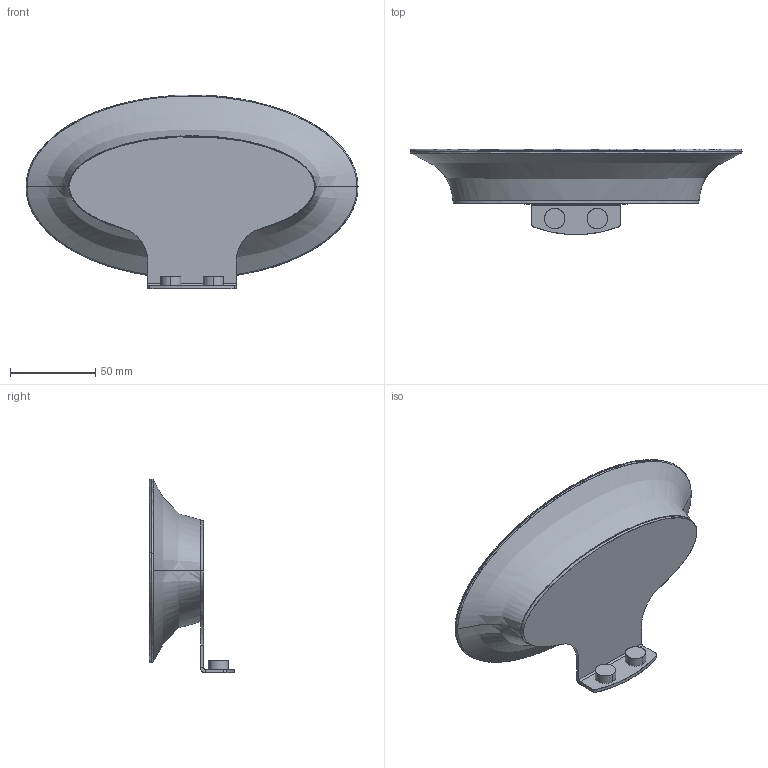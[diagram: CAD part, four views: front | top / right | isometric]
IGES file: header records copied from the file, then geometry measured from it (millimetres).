
Start section: SolidWorks IGES file using analytic representation for surfaces
Global section: file name: G:\Projects\New project\For Marketing\IGS\IGS\2015-12-25\766001318VW.IGS; native system: SolidWorks 2010; preprocessor: SolidWorks 2010; author: linda; date: 151216.154345; units: millimetre
Bounding box: 195 x 50 x 113.93 mm (x, y, z)
Surface area: 59618.1 mm2 (no closed solid volume)
Topology: 0 solids, 0 shells, 50 faces, 974 edges, 970 vertices
Faces by surface type: bspline 31, revolution 19
